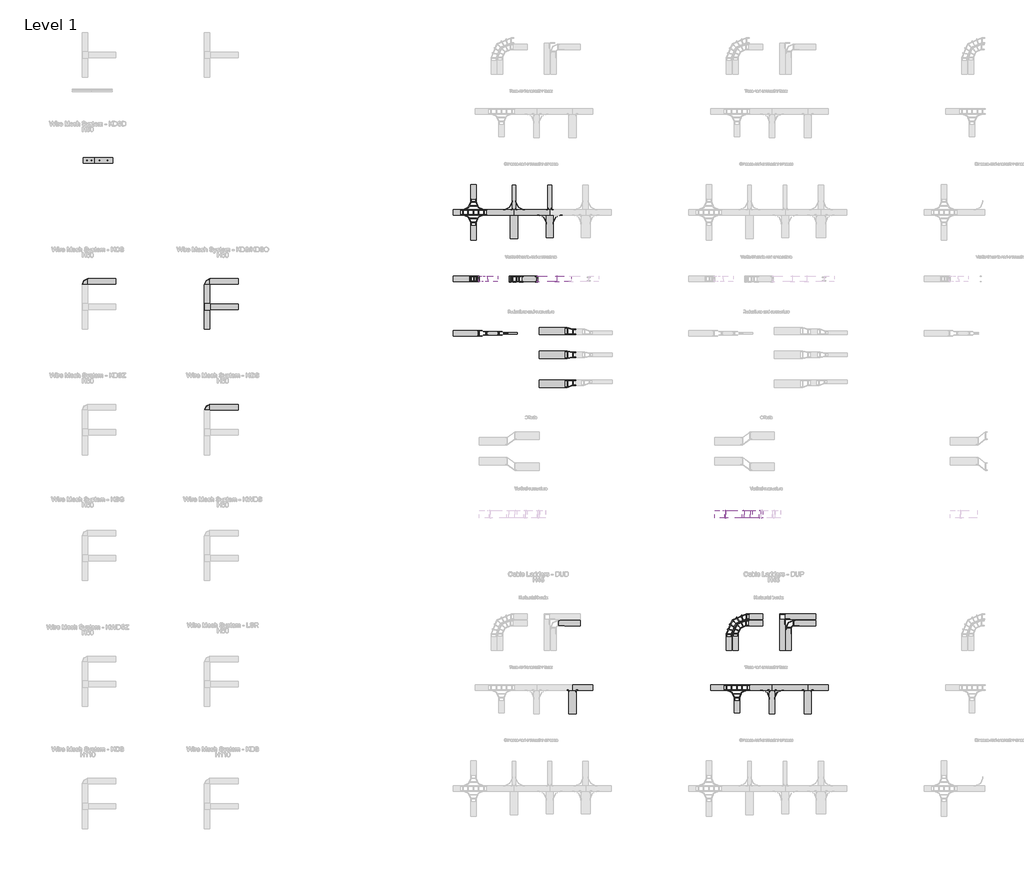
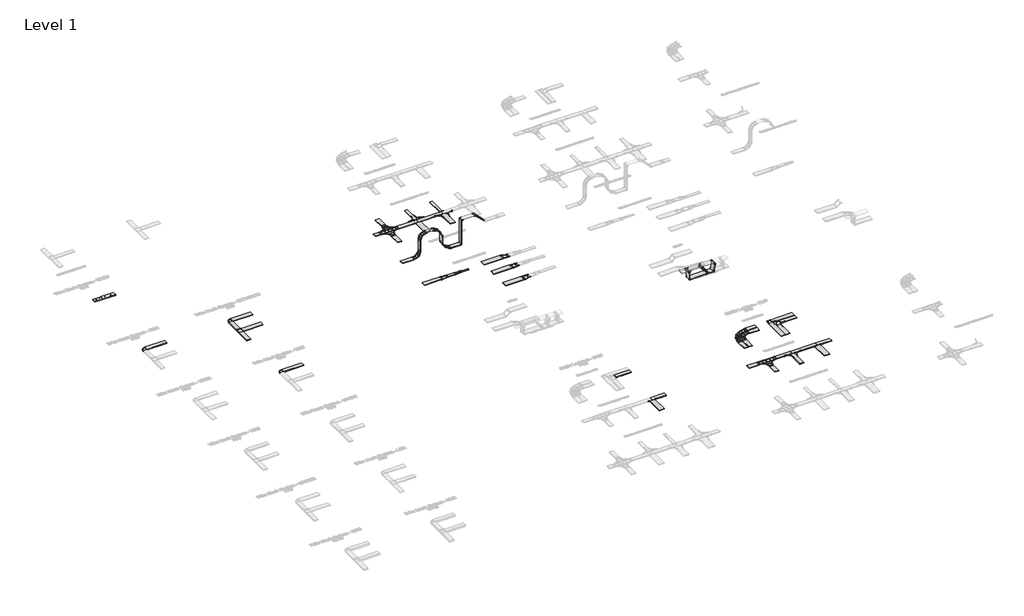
# One storey, part 12 of 106: 65 cable carrier fittings, 57 cable carrier segments.
"""IFC4 building model written with IfcOpenShell, lengths in millimetres."""

from ifc_helpers import new_model, si_unit, frame, origin, origin_with_axes, place, context, project, spatial, polyline, outline, extrude, transform, mapped, element, save
from components import cable_carrier_fitting_433d2681, cable_carrier_fitting_14ea2eab, cable_carrier_fitting_ce1f183e, cable_carrier_fitting_5924018d, cable_carrier_fitting_cf50b9aa, cable_carrier_fitting_6b69b3b7, cable_carrier_fitting_2d894193, cable_carrier_fitting_0f11f104, cable_carrier_fitting_c89aad98, cable_carrier_fitting_28cc8021, cable_carrier_fitting_8b1f635d, cable_carrier_fitting_d30d66bc, cable_carrier_fitting_8d7dc52b, cable_carrier_fitting_3c98dc92, cable_carrier_fitting_6c66d9f1, cable_carrier_fitting_4c1293df, cable_carrier_fitting_cb814f34, cable_carrier_fitting_edb32cbd, cable_carrier_fitting_a9217249, cable_carrier_fitting_c660702d, cable_carrier_fitting_92366696, cable_carrier_fitting_a2b46a04, cable_carrier_fitting_87479157, cable_carrier_fitting_b11fac2c, cable_carrier_fitting_3ee89383, cable_carrier_fitting_dba92b4f, cable_carrier_fitting_0282ae3e, cable_carrier_fitting_7be8867b, cable_carrier_fitting_6104b6d9, cable_carrier_fitting_ec1c524e, cable_carrier_fitting_202d3e5f, cable_carrier_fitting_c25b36c4, cable_carrier_fitting_df7fb664, cable_carrier_fitting_384de159, cable_carrier_fitting_cef1446e

model = new_model("IFC4")

# Units and contexts
model_context = context("Model", 3, world=origin())
ifc_project = project(units=[si_unit("LENGTHUNIT", "METRE", prefix="MILLI")], contexts=[model_context])

# Site, building, storey
site = spatial("IfcSite", under=ifc_project)
building = spatial("IfcBuilding", under=site)
storey = spatial("IfcBuildingStorey", under=building, Name="Level 1", Elevation=0.0)

# Cable carrier fittings
placement = place(None, origin())
cable_carrier_fitting_shape = cable_carrier_fitting_433d2681(model_context)
element("IfcCableCarrierFitting", 1, ObjectType="BAKS_Mesh ceiling hanger_UKDSPC : UKDSCP", at=placement, inside=storey, context=model_context, shape_type="MappedRepresentation", body=[
    mapped(cable_carrier_fitting_shape, transform((6812.6183275, 62709.5444956, 53.25), x_axis=(1.0, 0.0, 0.0), y_axis=(0.0, 1.0, 0.0), z_axis=(0.0, 0.0, 1.0))),
])
element("IfcCableCarrierFitting", 2, ObjectType="BAKS_Mesh ceiling hanger_UKDSPC : UKDSCP", at=placement, inside=storey, context=model_context, shape_type="MappedRepresentation", body=[
    mapped(cable_carrier_fitting_shape, transform((5689.547932, 62709.5444956, 53.25), x_axis=(1.0, 0.0, 0.0), y_axis=(0.0, 1.0, 0.0), z_axis=(0.0, 0.0, 1.0))),
])
cable_carrier_fitting_2_shape = cable_carrier_fitting_14ea2eab(model_context)
element("IfcCableCarrierFitting", 3, ObjectType="BAKS_Mesh ceiling hanger_UKDSC : LKDSC", at=placement, inside=storey, context=model_context, shape_type="MappedRepresentation", body=[
    mapped(cable_carrier_fitting_2_shape, transform((5934.0481079, 62709.5444956, 53.25), x_axis=(1.0, 0.0, 0.0), y_axis=(0.0, 1.0, 0.0), z_axis=(0.0, 0.0, 1.0))),
])
element("IfcCableCarrierFitting", 4, ObjectType="BAKS_Mesh ceiling hanger_UKDSC : LKDSC", at=placement, inside=storey, context=model_context, shape_type="MappedRepresentation", body=[
    mapped(cable_carrier_fitting_2_shape, transform((6378.0755942, 62709.5444956, 53.25), x_axis=(1.0, 0.0, 0.0), y_axis=(0.0, 1.0, 0.0), z_axis=(0.0, 0.0, 1.0))),
])
cable_carrier_fitting_3_shape = cable_carrier_fitting_ce1f183e(model_context)
element("IfcCableCarrierFitting", 5, ObjectType="BAKS_Mesh horizontal bend : KKSZ_H60", at=placement, inside=storey, context=model_context, shape_type="MappedRepresentation", body=[
    mapped(cable_carrier_fitting_3_shape, transform((5569.4167945, 56070.1887189, 30.0), x_axis=(-1.0, 0.0, 0.0), y_axis=(0.0, -1.0, 0.0), z_axis=(0.0, 0.0, 1.0))),
])
element("IfcCableCarrierFitting", 6, ObjectType="BAKS_Mesh horizontal bend : KKSZ_H60", at=placement, inside=storey, context=model_context, shape_type="MappedRepresentation", body=[
    mapped(cable_carrier_fitting_3_shape, transform((12269.4167945, 49170.1887189, 30.0), x_axis=(-1.0, 0.0, 0.0), y_axis=(0.0, -1.0, 0.0), z_axis=(0.0, 0.0, 1.0))),
])
element("IfcCableCarrierFitting", 7, ObjectType="BAKS_Mesh horizontal bend : KKSZ_H60", at=placement, inside=storey, context=model_context, shape_type="MappedRepresentation", body=[
    mapped(cable_carrier_fitting_3_shape, transform((12269.4167945, 56070.1887189, 30.0), x_axis=(-1.0, 0.0, 0.0), y_axis=(0.0, -1.0, 0.0), z_axis=(0.0, 0.0, 1.0))),
])
cable_carrier_fitting_4_shape = cable_carrier_fitting_5924018d(model_context)
element("IfcCableCarrierFitting", 8, ObjectType="BAKS_Mesh horizontal tee : TKSZ_H60", at=placement, inside=storey, context=model_context, shape_type="MappedRepresentation", body=[
    mapped(cable_carrier_fitting_4_shape, transform((12269.4167945, 54693.1012189, 30.0), x_axis=(0.0, 1.0, 0.0), y_axis=(-1.0, 0.0, 0.0), z_axis=(0.0, 0.0, 1.0))),
])
cable_carrier_fitting_5_shape = cable_carrier_fitting_cf50b9aa(model_context)
element("IfcCableCarrierFitting", 9, ObjectType="BAKS_SUB_Mesh connector : LKDSC", at=placement, inside=storey, context=model_context, shape_type="MappedRepresentation", body=[
    mapped(cable_carrier_fitting_5_shape, transform((6106.6145904, 62784.5444956, -35.25), x_axis=(1.0, 0.0, 0.0), y_axis=(0.0, -1.0, 0.0), z_axis=(0.0, 0.0, -1.0))),
])
element("IfcCableCarrierFitting", 10, ObjectType="BAKS_SUB_Mesh connector : LKDSC", at=placement, inside=storey, context=model_context, shape_type="MappedRepresentation", body=[
    mapped(cable_carrier_fitting_5_shape, transform((6106.6145904, 62634.5444956, -35.25), x_axis=(1.0, 0.0, 0.0), y_axis=(0.0, -1.0, 0.0), z_axis=(0.0, 0.0, -1.0))),
])
cable_carrier_fitting_6_shape = cable_carrier_fitting_6b69b3b7(model_context)
element("IfcCableCarrierFitting", 11, ObjectType="BAKS_LD_CONN_Vertical connector light_LPLS : LPLS60", at=placement, inside=storey, context=model_context, shape_type="MappedRepresentation", body=[
    mapped(cable_carrier_fitting_6_shape, transform((40659.0241468, 43507.9361079, 2052.4619182), x_axis=(-1.0, 0.0, 0.0), y_axis=(0.0, 0.0, 1.0), z_axis=(0.0, 1.0, 0.0))),
])
cable_carrier_fitting_7_shape = cable_carrier_fitting_2d894193(model_context)
element("IfcCableCarrierFitting", 12, ObjectType="BAKS_LD_CONN_Angle coupler bendable_LKU : LKUP_H45", at=placement, inside=storey, context=model_context, shape_type="MappedRepresentation", body=[
    mapped(cable_carrier_fitting_7_shape, transform((29189.2849338, 60020.7686574, 32.5), x_axis=(-1.0, 0.0, 0.0), y_axis=(0.0, -1.0, 0.0), z_axis=(0.0, 0.0, 1.0))),
])
element("IfcCableCarrierFitting", 13, ObjectType="BAKS_LD_CONN_Angle coupler bendable_LKU : LKUP_H45", at=placement, inside=storey, context=model_context, shape_type="MappedRepresentation", body=[
    mapped(cable_carrier_fitting_7_shape, transform((28989.2849338, 60020.7686574, 32.5), x_axis=(0.0, -1.0, 0.0), y_axis=(1.0, 0.0, 0.0), z_axis=(0.0, 0.0, 1.0))),
])
element("IfcCableCarrierFitting", 14, ObjectType="BAKS_LD_CONN_Angle coupler bendable_LKU : LKUP_H45", at=placement, inside=storey, context=model_context, shape_type="MappedRepresentation", body=[
    mapped(cable_carrier_fitting_7_shape, transform((28889.2849338, 59720.7686574, 30.0), x_axis=(1.0, 0.0, 0.0), y_axis=(0.0, 1.0, 0.0), z_axis=(0.0, 0.0, 1.0))),
])
element("IfcCableCarrierFitting", 15, ObjectType="BAKS_LD_CONN_Angle coupler bendable_LKU : LKUP_H45", at=placement, inside=storey, context=model_context, shape_type="MappedRepresentation", body=[
    mapped(cable_carrier_fitting_7_shape, transform((31150.9231102, 60020.7686574, 32.5), x_axis=(-1.0, 0.0, 0.0), y_axis=(0.0, -1.0, 0.0), z_axis=(0.0, 0.0, 1.0))),
])
element("IfcCableCarrierFitting", 16, ObjectType="BAKS_LD_CONN_Angle coupler bendable_LKU : LKUP_H45", at=placement, inside=storey, context=model_context, shape_type="MappedRepresentation", body=[
    mapped(cable_carrier_fitting_7_shape, transform((30950.9231102, 60020.7686574, 32.5), x_axis=(0.0, -1.0, 0.0), y_axis=(1.0, 0.0, 0.0), z_axis=(0.0, 0.0, 1.0))),
])
element("IfcCableCarrierFitting", 17, ObjectType="BAKS_LD_CONN_Angle coupler bendable_LKU : LKUP_H45", at=placement, inside=storey, context=model_context, shape_type="MappedRepresentation", body=[
    mapped(cable_carrier_fitting_7_shape, transform((30850.9231102, 59720.7686574, 30.0), x_axis=(1.0, 0.0, 0.0), y_axis=(0.0, 1.0, 0.0), z_axis=(0.0, 0.0, 1.0))),
])
element("IfcCableCarrierFitting", 18, ObjectType="BAKS_LD_CONN_Angle coupler bendable_LKU : LKUP_H45", at=placement, inside=storey, context=model_context, shape_type="MappedRepresentation", body=[
    mapped(cable_carrier_fitting_7_shape, transform((32089.4231102, 33655.924016, 32.5), x_axis=(1.0, 0.0, 0.0), y_axis=(0.0, 1.0, 0.0), z_axis=(0.0, 0.0, 1.0))),
])
element("IfcCableCarrierFitting", 19, ObjectType="BAKS_LD_CONN_Angle coupler bendable_LKU : LKUP_H45", at=placement, inside=storey, context=model_context, shape_type="MappedRepresentation", body=[
    mapped(cable_carrier_fitting_7_shape, transform((32489.4231102, 33655.924016, 32.5), x_axis=(0.0, 1.0, 0.0), y_axis=(-1.0, 0.0, 0.0), z_axis=(0.0, 0.0, 1.0))),
])
element("IfcCableCarrierFitting", 20, ObjectType="BAKS_LD_CONN_Angle coupler bendable_LKU : LKUP_H45", at=placement, inside=storey, context=model_context, shape_type="MappedRepresentation", body=[
    mapped(cable_carrier_fitting_7_shape, transform((43080.7849338, 33655.924016, 32.5), x_axis=(1.0, 0.0, 0.0), y_axis=(0.0, 1.0, 0.0), z_axis=(0.0, 0.0, 1.0))),
])
element("IfcCableCarrierFitting", 21, ObjectType="BAKS_LD_CONN_Angle coupler bendable_LKU : LKUP_H45", at=placement, inside=storey, context=model_context, shape_type="MappedRepresentation", body=[
    mapped(cable_carrier_fitting_7_shape, transform((43380.7849338, 33655.924016, 32.5), x_axis=(0.0, 1.0, 0.0), y_axis=(-1.0, 0.0, 0.0), z_axis=(0.0, 0.0, 1.0))),
])
element("IfcCableCarrierFitting", 22, ObjectType="BAKS_LD_CONN_Angle coupler bendable_LKU : LKUP_H45", at=placement, inside=storey, context=model_context, shape_type="MappedRepresentation", body=[
    mapped(cable_carrier_fitting_7_shape, transform((44989.4231102, 33655.924016, 32.5), x_axis=(1.0, 0.0, 0.0), y_axis=(0.0, 1.0, 0.0), z_axis=(0.0, 0.0, 1.0))),
])
element("IfcCableCarrierFitting", 23, ObjectType="BAKS_LD_CONN_Angle coupler bendable_LKU : LKUP_H45", at=placement, inside=storey, context=model_context, shape_type="MappedRepresentation", body=[
    mapped(cable_carrier_fitting_7_shape, transform((45389.4231102, 33655.924016, 32.5), x_axis=(0.0, 1.0, 0.0), y_axis=(-1.0, 0.0, 0.0), z_axis=(0.0, 0.0, 1.0))),
])
cable_carrier_fitting_8_shape = cable_carrier_fitting_0f11f104(model_context)
element("IfcCableCarrierFitting", 24, ObjectType="BAKS_LD_CONN_Addon connector_LDDK : LDDKP", at=placement, inside=storey, context=model_context, shape_type="MappedRepresentation", body=[
    mapped(cable_carrier_fitting_8_shape, transform((29189.2849338, 60020.7686574, 55.0), x_axis=(-1.0, 0.0, 0.0), y_axis=(0.0, -1.0, 0.0), z_axis=(0.0, 0.0, 1.0))),
])
element("IfcCableCarrierFitting", 25, ObjectType="BAKS_LD_CONN_Addon connector_LDDK : LDDKP", at=placement, inside=storey, context=model_context, shape_type="MappedRepresentation", body=[
    mapped(cable_carrier_fitting_8_shape, transform((30850.9231102, 59720.7686574, 55.0), x_axis=(1.0, 0.0, 0.0), y_axis=(0.0, 1.0, 0.0), z_axis=(0.0, 0.0, 1.0))),
])
element("IfcCableCarrierFitting", 26, ObjectType="BAKS_LD_CONN_Addon connector_LDDK : LDDKP", at=placement, inside=storey, context=model_context, shape_type="MappedRepresentation", body=[
    mapped(cable_carrier_fitting_8_shape, transform((43080.7849338, 33655.924016, 55.0), x_axis=(1.0, 0.0, 0.0), y_axis=(0.0, 1.0, 0.0), z_axis=(0.0, 0.0, 1.0))),
])
cable_carrier_fitting_9_shape = cable_carrier_fitting_c89aad98(model_context)
element("IfcCableCarrierFitting", 27, ObjectType="BAKS_LD_CONN_Vertical connector light_LPLS : LPLS60", at=placement, inside=storey, context=model_context, shape_type="MappedRepresentation", body=[
    mapped(cable_carrier_fitting_9_shape, transform((40659.0241468, 43107.9361079, 2052.4619182), x_axis=(-1.0, 0.0, 0.0), y_axis=(0.0, 0.0, -1.0), z_axis=(0.0, -1.0, 0.0))),
])
cable_carrier_fitting_10_shape = cable_carrier_fitting_28cc8021(model_context)
element("IfcCableCarrierFitting", 28, ObjectType="BAKS_LD_RED_Straight reducer_RD : RD(S/L/P)P_H45", at=placement, inside=storey, context=model_context, shape_type="MappedRepresentation", body=[
    mapped(cable_carrier_fitting_10_shape, transform((31865.5222547, 52057.8476348, 55.0), x_axis=(1.0, 0.0, 0.0), y_axis=(0.0, 1.0, 0.0), z_axis=(0.0, 0.0, 1.0))),
])
cable_carrier_fitting_11_shape = cable_carrier_fitting_8b1f635d(model_context)
element("IfcCableCarrierFitting", 29, ObjectType="BAKS_LD_BEND_Horizontal bend_LD : LDP_H45", at=placement, inside=storey, context=model_context, shape_type="MappedRepresentation", body=[
    mapped(cable_carrier_fitting_11_shape, transform((41233.1923304, 37334.0774962, 55.0), x_axis=(-1.0, 0.0, 0.0), y_axis=(0.0, -1.0, 0.0), z_axis=(0.0, 0.0, 1.0))),
])
cable_carrier_fitting_12_shape = cable_carrier_fitting_d30d66bc(model_context)
element("IfcCableCarrierFitting", 30, ObjectType="BAKS_LD_TEE_Ladder horizontal tee_TD : TDP_H45", at=placement, inside=storey, context=model_context, shape_type="MappedRepresentation", body=[
    mapped(cable_carrier_fitting_12_shape, transform((41302.3039726, 33805.924016, 55.0), x_axis=(1.0, 0.0, 0.0), y_axis=(0.0, 1.0, 0.0), z_axis=(0.0, 0.0, 1.0))),
])
cable_carrier_fitting_13_shape = cable_carrier_fitting_8d7dc52b(model_context)
element("IfcCableCarrierFitting", 31, ObjectType="BAKS_LD_CONN_Univarsal connector elbow_LLUS : LLUSP_H45", at=placement, inside=storey, context=model_context, shape_type="MappedRepresentation", body=[
    mapped(cable_carrier_fitting_13_shape, transform((44145.9928229, 37334.0678837, 55.0), x_axis=(-1.0, 0.0, 0.0), y_axis=(0.0, -1.0, 0.0), z_axis=(0.0, 0.0, 1.0))),
])
cable_carrier_fitting_14_shape = cable_carrier_fitting_3c98dc92(model_context)
element("IfcCableCarrierFitting", 32, ObjectType="BAKS_LD_BEND_Vertical bend 90deg external_LPDZ : LPDZP_H45", at=placement, inside=storey, context=model_context, shape_type="MappedRepresentation", body=[
    mapped(cable_carrier_fitting_14_shape, transform((27164.3823889, 56206.9805429, 1900.0), x_axis=(0.0, 0.0, 1.0), y_axis=(1.0, 0.0, 0.0), z_axis=(0.0, 1.0, 0.0))),
])
cable_carrier_fitting_15_shape = cable_carrier_fitting_6c66d9f1(model_context)
element("IfcCableCarrierFitting", 33, ObjectType="BAKS_LD_BEND_Articulated connector_LG : LGT_H45", at=placement, inside=storey, context=model_context, shape_type="MappedRepresentation", body=[
    mapped(cable_carrier_fitting_15_shape, transform((30364.3823889, 56056.9805429, 0.0), x_axis=(1.0, 0.0, 0.0), y_axis=(0.0, 0.0, 1.0), z_axis=(0.0, -1.0, 0.0))),
])
element("IfcCableCarrierFitting", 34, ObjectType="BAKS_LD_BEND_Articulated connector_LG : LGT_H45", at=placement, inside=storey, context=model_context, shape_type="MappedRepresentation", body=[
    mapped(cable_carrier_fitting_15_shape, transform((30364.3823889, 56356.9805429, 2000.0), x_axis=(0.0, 0.0, 1.0), y_axis=(1.0, 0.0, 0.0), z_axis=(0.0, 1.0, 0.0))),
])
element("IfcCableCarrierFitting", 35, ObjectType="BAKS_LD_BEND_Articulated connector_LG : LGT_H45", at=placement, inside=storey, context=model_context, shape_type="MappedRepresentation", body=[
    mapped(cable_carrier_fitting_15_shape, transform((40659.0241468, 43107.9361079, 1334.7815792), x_axis=(0.0, 0.0, -1.0), y_axis=(1.0, 0.0, 0.0), z_axis=(0.0, -1.0, 0.0))),
])
cable_carrier_fitting_16_shape = cable_carrier_fitting_4c1293df(model_context)
element("IfcCableCarrierFitting", 36, ObjectType="BAKS_LD_BEND_Articulated connector_LG : LGT_H45", at=placement, inside=storey, context=model_context, shape_type="MappedRepresentation", body=[
    mapped(cable_carrier_fitting_16_shape, transform((30364.3823889, 56356.9805429, 0.0), x_axis=(1.0, 0.0, 0.0), y_axis=(0.0, 0.0, -1.0), z_axis=(0.0, 1.0, 0.0))),
])
element("IfcCableCarrierFitting", 37, ObjectType="BAKS_LD_BEND_Articulated connector_LG : LGT_H45", at=placement, inside=storey, context=model_context, shape_type="MappedRepresentation", body=[
    mapped(cable_carrier_fitting_16_shape, transform((30364.3823889, 56056.9805429, 2000.0), x_axis=(0.0, 0.0, 1.0), y_axis=(-1.0, 0.0, 0.0), z_axis=(0.0, -1.0, 0.0))),
])
element("IfcCableCarrierFitting", 38, ObjectType="BAKS_LD_BEND_Articulated connector_LG : LGT_H45", at=placement, inside=storey, context=model_context, shape_type="MappedRepresentation", body=[
    mapped(cable_carrier_fitting_16_shape, transform((40659.0241468, 43507.9361079, 1334.7815792), x_axis=(0.0, 0.0, -1.0), y_axis=(-1.0, 0.0, 0.0), z_axis=(0.0, 1.0, 0.0))),
])
cable_carrier_fitting_17_shape = cable_carrier_fitting_cb814f34(model_context)
element("IfcCableCarrierFitting", 39, ObjectType="BAKS_LD_BEND_Horizontal bend external_LDZ : LDZP_H45", at=placement, inside=storey, context=model_context, shape_type="MappedRepresentation", body=[
    mapped(cable_carrier_fitting_17_shape, transform((40879.6389398, 37687.6308868, 55.0), x_axis=(-1.0, 0.0, 0.0), y_axis=(0.0, -1.0, 0.0), z_axis=(0.0, 0.0, 1.0))),
])
cable_carrier_fitting_18_shape = cable_carrier_fitting_edb32cbd(model_context)
element("IfcCableCarrierFitting", 40, ObjectType="BAKS_LD_CROSS_Horizontal cross over_CZD : CZDP_H45", at=placement, inside=storey, context=model_context, shape_type="MappedRepresentation", body=[
    mapped(cable_carrier_fitting_18_shape, transform((26864.7261828, 59870.7686574, 55.0), x_axis=(-1.0, 0.0, 0.0), y_axis=(0.0, -1.0, 0.0), z_axis=(0.0, 0.0, 1.0))),
])
cable_carrier_fitting_19_shape = cable_carrier_fitting_a9217249(model_context)
element("IfcCableCarrierFitting", 41, ObjectType="BAKS_LD_CONN_Addon connector_LDDK : LDDKP", at=placement, inside=storey, context=model_context, shape_type="MappedRepresentation", body=[
    mapped(cable_carrier_fitting_19_shape, transform((28989.2849338, 60020.7686574, 55.0), x_axis=(1.0, 0.0, 0.0), y_axis=(0.0, 1.0, 0.0), z_axis=(0.0, 0.0, 1.0))),
])
element("IfcCableCarrierFitting", 42, ObjectType="BAKS_LD_CONN_Addon connector_LDDK : LDDKP", at=placement, inside=storey, context=model_context, shape_type="MappedRepresentation", body=[
    mapped(cable_carrier_fitting_19_shape, transform((31250.9231102, 59720.7686574, 55.0), x_axis=(-1.0, 0.0, 0.0), y_axis=(0.0, -1.0, 0.0), z_axis=(0.0, 0.0, 1.0))),
])
element("IfcCableCarrierFitting", 43, ObjectType="BAKS_LD_CONN_Addon connector_LDDK : LDDKP", at=placement, inside=storey, context=model_context, shape_type="MappedRepresentation", body=[
    mapped(cable_carrier_fitting_19_shape, transform((43380.7849338, 33655.924016, 55.0), x_axis=(-1.0, 0.0, 0.0), y_axis=(0.0, -1.0, 0.0), z_axis=(0.0, 0.0, 1.0))),
])
cable_carrier_fitting_20_shape = cable_carrier_fitting_c660702d(model_context)
element("IfcCableCarrierFitting", 44, ObjectType="BAKS_LD_CONN_Angle coupler bendable_LKU : LKUP_H45", at=placement, inside=storey, context=model_context, shape_type="MappedRepresentation", body=[
    mapped(cable_carrier_fitting_20_shape, transform((29289.2849338, 59720.7686574, 30.0), x_axis=(-1.0, 0.0, 0.0), y_axis=(0.0, -1.0, 0.0), z_axis=(0.0, 0.0, 1.0))),
])
element("IfcCableCarrierFitting", 45, ObjectType="BAKS_LD_CONN_Angle coupler bendable_LKU : LKUP_H45", at=placement, inside=storey, context=model_context, shape_type="MappedRepresentation", body=[
    mapped(cable_carrier_fitting_20_shape, transform((31250.9231102, 59720.7686574, 30.0), x_axis=(-1.0, 0.0, 0.0), y_axis=(0.0, -1.0, 0.0), z_axis=(0.0, 0.0, 1.0))),
])
cable_carrier_fitting_21_shape = cable_carrier_fitting_92366696(model_context)
cable_carrier_fitting_22_shape = cable_carrier_fitting_a2b46a04(model_context)
element("IfcCableCarrierFitting", 46, ObjectType="BAKS_LD_BEND_Adjustable vertical bend_LPD : LPDP_H45", at=placement, inside=storey, context=model_context, shape_type="MappedRepresentation", body=[
    mapped(cable_carrier_fitting_21_shape, transform((28864.3823889, 56206.9805429, 1900.0), x_axis=(1.0, 0.0, 0.0), y_axis=(0.0, 0.0, -1.0), z_axis=(0.0, 1.0, 0.0))),
    mapped(cable_carrier_fitting_22_shape, transform((28864.3823889, 56206.9805429, 1900.0), x_axis=(1.0, 0.0, 0.0), y_axis=(0.0, 0.0, -1.0), z_axis=(0.0, 1.0, 0.0))),
])
element("IfcCableCarrierFitting", 47, ObjectType="BAKS_LD_BEND_Adjustable vertical bend_LPD : LPDP_H45", at=placement, inside=storey, context=model_context, shape_type="MappedRepresentation", body=[
    mapped(cable_carrier_fitting_21_shape, transform((28864.3823889, 56206.9805429, 0.0), x_axis=(0.0, 0.0, -1.0), y_axis=(1.0, 0.0, 0.0), z_axis=(0.0, -1.0, 0.0))),
    mapped(cable_carrier_fitting_22_shape, transform((28864.3823889, 56206.9805429, 0.0), x_axis=(0.0, 0.0, -1.0), y_axis=(1.0, 0.0, 0.0), z_axis=(0.0, -1.0, 0.0))),
])
cable_carrier_fitting_23_shape = cable_carrier_fitting_87479157(model_context)
element("IfcCableCarrierFitting", 48, ObjectType="BAKS_LD_BEND_Articulated connector_LG : LGT_H45", at=placement, inside=storey, context=model_context, shape_type="MappedRepresentation", body=[
    mapped(cable_carrier_fitting_23_shape, transform((31464.3823889, 56356.9805429, 2000.0), x_axis=(1.0, 0.0, 0.0), y_axis=(0.0, 0.0, -1.0), z_axis=(0.0, 1.0, 0.0))),
])
cable_carrier_fitting_24_shape = cable_carrier_fitting_b11fac2c(model_context)
element("IfcCableCarrierFitting", 49, ObjectType="BAKS_LD_BEND_Articulated connector_LG : LGT_H45", at=placement, inside=storey, context=model_context, shape_type="MappedRepresentation", body=[
    mapped(cable_carrier_fitting_24_shape, transform((31464.3823889, 56056.9805429, 2000.0), x_axis=(1.0, 0.0, 0.0), y_axis=(0.0, 0.0, 1.0), z_axis=(0.0, -1.0, 0.0))),
])
element("IfcCableCarrierFitting", 50, ObjectType="BAKS_LD_BEND_Vertical bend 90deg internal_LPDW : LPDWP_H45", at=placement, inside=storey, context=model_context, shape_type="MappedRepresentation", body=[
    mapped(cable_carrier_fitting_14_shape, transform((27164.3823889, 56206.9805429, 55.0), x_axis=(1.0, 0.0, 0.0), y_axis=(0.0, 0.0, 1.0), z_axis=(0.0, -1.0, 0.0))),
])
cable_carrier_fitting_25_shape = cable_carrier_fitting_3ee89383(model_context)
element("IfcCableCarrierFitting", 51, ObjectType="BAKS_LD_CONN_Univarsal connector reduction_LLUS : LLUSP_H45", at=placement, inside=storey, context=model_context, shape_type="MappedRepresentation", body=[
    mapped(cable_carrier_fitting_25_shape, transform((28164.3823889, 53231.6579459, 55.0), x_axis=(1.0, 0.0, 0.0), y_axis=(0.0, 1.0, 0.0), z_axis=(0.0, 0.0, 1.0))),
])
cable_carrier_fitting_26_shape = cable_carrier_fitting_dba92b4f(model_context)
element("IfcCableCarrierFitting", 52, ObjectType="BAKS_LD_RED_Straight reducer_RD : RD(S/L/P)P_H45", at=placement, inside=storey, context=model_context, shape_type="MappedRepresentation", body=[
    mapped(cable_carrier_fitting_26_shape, transform((31865.5222547, 50471.6579459, 55.0), x_axis=(1.0, 0.0, 0.0), y_axis=(0.0, 1.0, 0.0), z_axis=(0.0, 0.0, 1.0))),
])
cable_carrier_fitting_27_shape = cable_carrier_fitting_0282ae3e(model_context)
element("IfcCableCarrierFitting", 53, ObjectType="BAKS_LD_CONN_Angle connector_LKD : LKDP_H45", at=placement, inside=storey, context=model_context, shape_type="MappedRepresentation", body=[
    mapped(cable_carrier_fitting_27_shape, transform((43642.4394324, 37837.6212743, 55.0), x_axis=(-1.0, 0.0, 0.0), y_axis=(0.0, -1.0, 0.0), z_axis=(0.0, 0.0, 1.0))),
])
cable_carrier_fitting_28_shape = cable_carrier_fitting_7be8867b(model_context)
element("IfcCableCarrierFitting", 54, ObjectType="BAKS_LD_CONN_Angle connector_LKD : LKDP_H45", at=placement, inside=storey, context=model_context, shape_type="MappedRepresentation", body=[
    mapped(cable_carrier_fitting_28_shape, transform((43942.4394324, 37537.6212743, 55.0), x_axis=(-1.0, 0.0, 0.0), y_axis=(0.0, -1.0, 0.0), z_axis=(0.0, 0.0, 1.0))),
])
cable_carrier_fitting_29_shape = cable_carrier_fitting_6104b6d9(model_context)
element("IfcCableCarrierFitting", 55, ObjectType="BAKS_LD_BEND_2 x Angle connector_LKD : 2 x LKDP_H45", at=placement, inside=storey, context=model_context, shape_type="MappedRepresentation", body=[
    mapped(cable_carrier_fitting_29_shape, transform((43792.4394324, 37687.6212743, 55.0), x_axis=(-1.0, 0.0, 0.0), y_axis=(0.0, -1.0, 0.0), z_axis=(0.0, 0.0, 1.0))),
])
cable_carrier_fitting_30_shape = cable_carrier_fitting_ec1c524e(model_context)
element("IfcCableCarrierFitting", 56, ObjectType="BAKS_LD_RED_Straight reducer_RD : RD(S/L/P)P_H45", at=placement, inside=storey, context=model_context, shape_type="MappedRepresentation", body=[
    mapped(cable_carrier_fitting_30_shape, transform((31865.5222547, 53357.8476348, 55.0), x_axis=(1.0, 0.0, 0.0), y_axis=(0.0, 1.0, 0.0), z_axis=(0.0, 0.0, 1.0))),
])
cable_carrier_fitting_31_shape = cable_carrier_fitting_202d3e5f(model_context)
element("IfcCableCarrierFitting", 57, ObjectType="BAKS_LD_CONN_Univarsal connector reduction_LLUS : LLUSP_H45", at=placement, inside=storey, context=model_context, shape_type="MappedRepresentation", body=[
    mapped(cable_carrier_fitting_31_shape, transform((27064.3823889, 53231.6579459, 55.0), x_axis=(1.0, 0.0, 0.0), y_axis=(0.0, 1.0, 0.0), z_axis=(0.0, 0.0, 1.0))),
])
cable_carrier_fitting_32_shape = cable_carrier_fitting_c25b36c4(model_context)
element("IfcCableCarrierFitting", 58, ObjectType="BAKS_LD_TEE_Articulated connector attachable_LDD : LDDT_H45", at=placement, inside=storey, context=model_context, shape_type="MappedRepresentation", body=[
    mapped(cable_carrier_fitting_32_shape, transform((41710.266251, 43107.9361079, 1949.9576433), x_axis=(1.0, 0.0, 0.0), y_axis=(0.0, 1.0, 0.0), z_axis=(0.0, 0.0, 1.0))),
])
element("IfcCableCarrierFitting", 59, ObjectType="BAKS_LD_TEE_Articulated connector attachable_LDD : LDDT_H45", at=placement, inside=storey, context=model_context, shape_type="MappedRepresentation", body=[
    mapped(cable_carrier_fitting_32_shape, transform((42028.739213, 43107.9361079, 1412.2815792), x_axis=(-1.0, 0.0, 0.0), y_axis=(0.0, 1.0, 0.0), z_axis=(0.0, 0.0, -1.0))),
])
cable_carrier_fitting_33_shape = cable_carrier_fitting_df7fb664(model_context)
element("IfcCableCarrierFitting", 60, ObjectType="BAKS_LD_TEE_Articulated connector attachable_LDD : LDDT_H45", at=placement, inside=storey, context=model_context, shape_type="MappedRepresentation", body=[
    mapped(cable_carrier_fitting_33_shape, transform((41710.266251, 43507.9361079, 1949.9576433), x_axis=(1.0, 0.0, 0.0), y_axis=(0.0, 1.0, 0.0), z_axis=(0.0, 0.0, 1.0))),
])
element("IfcCableCarrierFitting", 61, ObjectType="BAKS_LD_TEE_Articulated connector attachable_LDD : LDDT_H45", at=placement, inside=storey, context=model_context, shape_type="MappedRepresentation", body=[
    mapped(cable_carrier_fitting_33_shape, transform((42028.739213, 43507.9361079, 1412.2815792), x_axis=(-1.0, 0.0, 0.0), y_axis=(0.0, 1.0, 0.0), z_axis=(0.0, 0.0, -1.0))),
])
cable_carrier_fitting_34_shape = cable_carrier_fitting_384de159(model_context)
element("IfcCableCarrierFitting", 62, ObjectType="BAKS_LD_TEE_Articulated connector attachable_LDD : LDDT_H45", at=placement, inside=storey, context=model_context, shape_type="MappedRepresentation", body=[
    mapped(cable_carrier_fitting_34_shape, transform((42626.8193277, 43507.9361079, 1412.2815792), x_axis=(1.0, 0.0, 0.0), y_axis=(0.0, -1.0, 0.0), z_axis=(0.0, 0.0, -1.0))),
])
element("IfcCableCarrierFitting", 63, ObjectType="BAKS_LD_TEE_Articulated connector attachable_LDD : LDDT_H45", at=placement, inside=storey, context=model_context, shape_type="MappedRepresentation", body=[
    mapped(cable_carrier_fitting_34_shape, transform((42610.4138626, 43507.9361079, 1949.9295622), x_axis=(-1.0, 0.0, 0.0), y_axis=(0.0, -1.0, 0.0), z_axis=(0.0, 0.0, 1.0))),
])
cable_carrier_fitting_35_shape = cable_carrier_fitting_cef1446e(model_context)
element("IfcCableCarrierFitting", 64, ObjectType="BAKS_LD_TEE_Articulated connector attachable_LDD : LDDT_H45", at=placement, inside=storey, context=model_context, shape_type="MappedRepresentation", body=[
    mapped(cable_carrier_fitting_35_shape, transform((42626.8193277, 43107.9361079, 1412.2815792), x_axis=(1.0, 0.0, 0.0), y_axis=(0.0, -1.0, 0.0), z_axis=(0.0, 0.0, -1.0))),
])
element("IfcCableCarrierFitting", 65, ObjectType="BAKS_LD_TEE_Articulated connector attachable_LDD : LDDT_H45", at=placement, inside=storey, context=model_context, shape_type="MappedRepresentation", body=[
    mapped(cable_carrier_fitting_35_shape, transform((42610.4138626, 43107.9361079, 1949.9295622), x_axis=(-1.0, 0.0, 0.0), y_axis=(0.0, -1.0, 0.0), z_axis=(0.0, 0.0, 1.0))),
])

# Cable carrier segments
element("IfcCableCarrierSegment", 66, ObjectType="BAKS - Wire mesh tray H60 (KCS)", at=placement, inside=storey, context=model_context, shape_type="SweptSolid", body=[
    extrude(outline(polyline([(5723.5917945, 55920.1887189), (5723.5917945, 56220.1887189), (7269.4167945, 56220.1887189), (7269.4167945, 55920.1887189), (5723.5917945, 55920.1887189)])), origin_with_axes(), (0.0, 0.0, 1.0), 60.0),
])
element("IfcCableCarrierSegment", 67, ObjectType="BAKS - Wire mesh tray H60 (KDS/KDSO)", at=placement, inside=storey, context=model_context, shape_type="SweptSolid", body=[
    extrude(outline(polyline([(12423.5917945, 55920.1887189), (12423.5917945, 56220.1887189), (13969.4167945, 56220.1887189), (13969.4167945, 55920.1887189), (12423.5917945, 55920.1887189)])), origin_with_axes(), (0.0, 0.0, 1.0), 60.0),
])
element("IfcCableCarrierSegment", 68, ObjectType="BAKS - Wire mesh tray H60 (KDS/KDSO)", at=placement, inside=storey, context=model_context, shape_type="SweptSolid", body=[
    extrude(outline(polyline([(12419.4167945, 54898.1012189), (12119.4167945, 54898.1012189), (12119.4167945, 55916.0137189), (12419.4167945, 55916.0137189), (12419.4167945, 54898.1012189)])), origin_with_axes(), (0.0, 0.0, 1.0), 60.0),
])
element("IfcCableCarrierSegment", 69, ObjectType="BAKS - Wire mesh tray H60 (KDS/KDSO)", at=placement, inside=storey, context=model_context, shape_type="SweptSolid", body=[
    extrude(outline(polyline([(12474.4167945, 54543.1012189), (12474.4167945, 54843.1012189), (13969.4167945, 54843.1012189), (13969.4167945, 54543.1012189), (12474.4167945, 54543.1012189)])), origin_with_axes(), (0.0, 0.0, 1.0), 60.0),
])
element("IfcCableCarrierSegment", 70, ObjectType="BAKS - Wire mesh tray H60 (KGS)", at=placement, inside=storey, context=model_context, shape_type="SweptSolid", body=[
    extrude(outline(polyline([(12423.5917945, 49020.1887189), (12423.5917945, 49320.1887189), (13969.4167945, 49320.1887189), (13969.4167945, 49020.1887189), (12423.5917945, 49020.1887189)])), origin_with_axes(), (0.0, 0.0, 1.0), 60.0),
])
element("IfcCableCarrierSegment", 71, ObjectType="BAKS - Wire mesh tray H60 (KDS/KDSO)", at=placement, inside=storey, context=model_context, shape_type="SweptSolid", body=[
    extrude(outline(polyline([(12419.4167945, 53470.1887189), (12119.4167945, 53470.1887189), (12119.4167945, 54488.1012189), (12419.4167945, 54488.1012189), (12419.4167945, 53470.1887189)])), origin_with_axes(), (0.0, 0.0, 1.0), 60.0),
])
element("IfcCableCarrierSegment", 72, ObjectType="BAKS - Wire mesh tray H50 (KDSD)", at=placement, inside=storey, context=model_context, shape_type="SweptSolid", body=[
    extrude(outline(polyline([(6091.6145904, 62859.5444956), (6091.6145904, 62559.5444956), (5489.557436, 62559.5444956), (5489.557436, 62859.5444956), (6091.6145904, 62859.5444956)])), origin_with_axes(), (0.0, 0.0, 1.0), 50.0),
])
element("IfcCableCarrierSegment", 73, ObjectType="BAKS - Wire mesh tray H50 (KDSD)", at=placement, inside=storey, context=model_context, shape_type="SweptSolid", body=[
    extrude(outline(polyline([(7109.557436, 62859.5444956), (7109.557436, 62559.5444956), (6121.6145904, 62559.5444956), (6121.6145904, 62859.5444956), (7109.557436, 62859.5444956)])), origin_with_axes(), (0.0, 0.0, 1.0), 50.0),
])
element("IfcCableCarrierSegment", 74, ObjectType="BAKS - Ladder H45 (DKD)", at=placement, inside=storey, context=model_context, shape_type="SweptSolid", body=[
    extrude(outline(polyline([(25764.3823889, 59720.7686574), (25764.3823889, 60020.7686574), (26144.7261828, 60020.7686574), (26144.7261828, 59720.7686574), (25764.3823889, 59720.7686574)])), frame((0.0, 0.0, 32.5), z_axis=(0.0, 0.0, 1.0), x_axis=(1.0, 0.0, 0.0)), (0.0, 0.0, 1.0), 45.0),
])
element("IfcCableCarrierSegment", 75, ObjectType="BAKS - Ladder H45 (DKD)", at=placement, inside=storey, context=model_context, shape_type="SweptSolid", body=[
    extrude(outline(polyline([(27584.7261828, 59720.7686574), (27584.7261828, 60020.7686574), (29087.7849338, 60020.7686574), (29087.7849338, 59720.7686574), (27584.7261828, 59720.7686574)])), frame((0.0, 0.0, 32.5), z_axis=(0.0, 0.0, 1.0), x_axis=(1.0, 0.0, 0.0)), (0.0, 0.0, 1.0), 45.0),
])
element("IfcCableCarrierSegment", 76, ObjectType="BAKS - Ladder H45 (DKD)", at=placement, inside=storey, context=model_context, shape_type="SweptSolid", body=[
    extrude(outline(polyline([(29090.7849338, 59720.7686574), (29090.7849338, 60020.7686574), (31049.4231102, 60020.7686574), (31049.4231102, 59720.7686574), (29090.7849338, 59720.7686574)])), frame((0.0, 0.0, 32.5), z_axis=(0.0, 0.0, 1.0), x_axis=(1.0, 0.0, 0.0)), (0.0, 0.0, 1.0), 45.0),
])
element("IfcCableCarrierSegment", 77, ObjectType="BAKS - Ladder H45 (DKD)", at=placement, inside=storey, context=model_context, shape_type="SweptSolid", body=[
    extrude(outline(polyline([(27014.7261828, 60590.7686574), (26714.7261828, 60590.7686574), (26714.7261828, 61390.7686574), (27014.7261828, 61390.7686574), (27014.7261828, 60590.7686574)])), frame((0.0, 0.0, 32.5), z_axis=(0.0, 0.0, 1.0), x_axis=(1.0, 0.0, 0.0)), (0.0, 0.0, 1.0), 45.0),
])
element("IfcCableCarrierSegment", 78, ObjectType="BAKS - Ladder H45 (DKD)", at=placement, inside=storey, context=model_context, shape_type="SweptSolid", body=[
    extrude(outline(polyline([(26714.7261828, 59150.7686574), (27014.7261828, 59150.7686574), (27014.7261828, 58350.7686574), (26714.7261828, 58350.7686574), (26714.7261828, 59150.7686574)])), frame((0.0, 0.0, 32.5), z_axis=(0.0, 0.0, 1.0), x_axis=(1.0, 0.0, 0.0)), (0.0, 0.0, 1.0), 45.0),
])
element("IfcCableCarrierSegment", 79, ObjectType="BAKS - Ladder H45 (DKD)", at=placement, inside=storey, context=model_context, shape_type="SweptSolid", body=[
    extrude(outline(polyline([(29189.2849338, 60050.7686574), (28989.2849338, 60050.7686574), (28989.2849338, 61370.7686574), (29189.2849338, 61370.7686574), (29189.2849338, 60050.7686574)])), frame((0.0, 0.0, 32.5), z_axis=(0.0, 0.0, 1.0), x_axis=(1.0, 0.0, 0.0)), (0.0, 0.0, 1.0), 45.0),
])
element("IfcCableCarrierSegment", 80, ObjectType="BAKS - Ladder H45 (DKD)", at=placement, inside=storey, context=model_context, shape_type="SweptSolid", body=[
    extrude(outline(polyline([(28889.2849338, 59690.7686574), (29289.2849338, 59690.7686574), (29289.2849338, 58430.7686574), (28889.2849338, 58430.7686574), (28889.2849338, 59690.7686574)])), frame((0.0, 0.0, 32.5), z_axis=(0.0, 0.0, 1.0), x_axis=(1.0, 0.0, 0.0)), (0.0, 0.0, 1.0), 45.0),
])
element("IfcCableCarrierSegment", 81, ObjectType="BAKS - Ladder H45 (DKD)", at=placement, inside=storey, context=model_context, shape_type="SweptSolid", body=[
    extrude(outline(polyline([(31150.9231102, 60050.7686574), (30950.9231102, 60050.7686574), (30950.9231102, 61370.7686574), (31150.9231102, 61370.7686574), (31150.9231102, 60050.7686574)])), frame((0.0, 0.0, 32.5), z_axis=(0.0, 0.0, 1.0), x_axis=(1.0, 0.0, 0.0)), (0.0, 0.0, 1.0), 45.0),
])
element("IfcCableCarrierSegment", 82, ObjectType="BAKS - Ladder H45 (DKD)", at=placement, inside=storey, context=model_context, shape_type="SweptSolid", body=[
    extrude(outline(polyline([(30850.9231102, 59690.7686574), (31250.9231102, 59690.7686574), (31250.9231102, 58470.7686574), (30850.9231102, 58470.7686574), (30850.9231102, 59690.7686574)])), frame((0.0, 0.0, 32.5), z_axis=(0.0, 0.0, 1.0), x_axis=(1.0, 0.0, 0.0)), (0.0, 0.0, 1.0), 45.0),
])
element("IfcCableCarrierSegment", 83, ObjectType="BAKS - Ladder H45 (DKD)", at=placement, inside=storey, context=model_context, shape_type="SweptSolid", body=[
    extrude(outline(polyline([(25764.3823889, 56056.9805429), (25764.3823889, 56356.9805429), (26641.8823889, 56356.9805429), (26641.8823889, 56056.9805429), (25764.3823889, 56056.9805429)])), frame((0.0, 0.0, 32.5), z_axis=(0.0, 0.0, 1.0), x_axis=(1.0, 0.0, 0.0)), (0.0, 0.0, 1.0), 45.0),
])
element("IfcCableCarrierSegment", 84, ObjectType="BAKS - Ladder H45 (DKD)", at=placement, inside=storey, context=model_context, shape_type="SweptSolid", body=[
    extrude(outline(polyline([(27686.8823889, 56056.9805429), (27686.8823889, 56356.9805429), (28199.6709572, 56356.9805429), (28199.6709572, 56056.9805429), (27686.8823889, 56056.9805429)])), frame((0.0, 0.0, 1877.5), z_axis=(0.0, 0.0, 1.0), x_axis=(1.0, 0.0, 0.0)), (0.0, 0.0, 1.0), 45.0),
])
element("IfcCableCarrierSegment", 85, ObjectType="BAKS - Ladder H45 (DKD)", at=placement, inside=storey, context=model_context, shape_type="SweptSolid", body=[
    extrude(outline(polyline([(27141.8823889, 56356.9805429), (27186.8823889, 56356.9805429), (27186.8823889, 56056.9805429), (27141.8823889, 56056.9805429), (27141.8823889, 56356.9805429)])), frame((0.0, 0.0, 577.5), z_axis=(0.0, 0.0, 1.0), x_axis=(1.0, 0.0, 0.0)), (0.0, 0.0, 1.0), 800.0),
])
element("IfcCableCarrierSegment", 86, ObjectType="BAKS - Ladder H45 (DKD)", at=placement, inside=storey, context=model_context, shape_type="SweptSolid", body=[
    extrude(outline(polyline([(29529.0938206, 56056.9805429), (29529.0938206, 56356.9805429), (30339.3823889, 56356.9805429), (30339.3823889, 56056.9805429), (29529.0938206, 56056.9805429)])), frame((0.0, 0.0, -22.5), z_axis=(0.0, 0.0, 1.0), x_axis=(1.0, 0.0, 0.0)), (0.0, 0.0, 1.0), 45.0),
])
element("IfcCableCarrierSegment", 87, ObjectType="BAKS - Ladder H45 (DKD)", at=placement, inside=storey, context=model_context, shape_type="SweptSolid", body=[
    extrude(outline(polyline([(28886.8823889, 56356.9805429), (28886.8823889, 56056.9805429), (28841.8823889, 56056.9805429), (28841.8823889, 56356.9805429), (28886.8823889, 56356.9805429)])), frame((0.0, 0.0, 664.7114317), z_axis=(0.0, 0.0, 1.0), x_axis=(1.0, 0.0, 0.0)), (0.0, 0.0, 1.0), 570.5771366),
])
element("IfcCableCarrierSegment", 88, ObjectType="BAKS - Ladder H45 (DKD)", at=placement, inside=storey, context=model_context, shape_type="SweptSolid", body=[
    extrude(outline(polyline([(30389.3823889, 56056.9805429), (30389.3823889, 56356.9805429), (31439.3823889, 56356.9805429), (31439.3823889, 56056.9805429), (30389.3823889, 56056.9805429)])), frame((0.0, 0.0, 1977.5), z_axis=(0.0, 0.0, 1.0), x_axis=(1.0, 0.0, 0.0)), (0.0, 0.0, 1.0), 45.0),
])
element("IfcCableCarrierSegment", 89, ObjectType="BAKS - Ladder H45 (DKD)", at=placement, inside=storey, context=model_context, shape_type="SweptSolid", body=[
    extrude(outline(polyline([(30386.8823889, 56056.9805429), (30341.8823889, 56056.9805429), (30341.8823889, 56356.9805429), (30386.8823889, 56356.9805429), (30386.8823889, 56056.9805429)])), frame((0.0, 0.0, 25.0), z_axis=(0.0, 0.0, 1.0), x_axis=(1.0, 0.0, 0.0)), (0.0, 0.0, 1.0), 1950.0),
])
element("IfcCableCarrierSegment", 90, ObjectType="BAKS - Ladder H45 (DKD)", at=placement, inside=storey, context=model_context, shape_type="SweptSolid", body=[
    extrude(outline(polyline([(0.0, -300.0), (0.0, 0.0), (1025.0, 0.0), (1025.0, -300.0), (0.0, -300.0)])), frame((31466.1501559, 56356.9805429, 1966.4124279), z_axis=(0.7071067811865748, 0.0, 0.7071067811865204), x_axis=(0.7071067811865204, 0.0, -0.7071067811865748)), (0.0, 0.0, 1.0), 45.0),
])
element("IfcCableCarrierSegment", 91, ObjectType="BAKS - Ladder H45 (DKD)", at=placement, inside=storey, context=model_context, shape_type="SweptSolid", body=[
    extrude(outline(polyline([(25764.3823889, 53081.6579459), (25764.3823889, 53381.6579459), (27109.3823889, 53381.6579459), (27109.3823889, 53081.6579459), (25764.3823889, 53081.6579459)])), frame((0.0, 0.0, 32.5), z_axis=(0.0, 0.0, 1.0), x_axis=(1.0, 0.0, 0.0)), (0.0, 0.0, 1.0), 45.0),
])
element("IfcCableCarrierSegment", 92, ObjectType="BAKS - Ladder H45 (DKD)", at=placement, inside=storey, context=model_context, shape_type="SweptSolid", body=[
    extrude(outline(polyline([(27619.3823889, 53131.6579459), (27619.3823889, 53331.6579459), (28209.3823889, 53331.6579459), (28209.3823889, 53131.6579459), (27619.3823889, 53131.6579459)])), frame((0.0, 0.0, 32.5), z_axis=(0.0, 0.0, 1.0), x_axis=(1.0, 0.0, 0.0)), (0.0, 0.0, 1.0), 45.0),
])
element("IfcCableCarrierSegment", 93, ObjectType="BAKS - Ladder H45 (DKD)", at=placement, inside=storey, context=model_context, shape_type="SweptSolid", body=[
    extrude(outline(polyline([(28719.3823889, 53181.6579459), (28719.3823889, 53281.6579459), (29264.3823889, 53281.6579459), (29264.3823889, 53181.6579459), (28719.3823889, 53181.6579459)])), frame((0.0, 0.0, 32.5), z_axis=(0.0, 0.0, 1.0), x_axis=(1.0, 0.0, 0.0)), (0.0, 0.0, 1.0), 45.0),
])
element("IfcCableCarrierSegment", 94, ObjectType="BAKS - Ladder H45 (DKD)", at=placement, inside=storey, context=model_context, shape_type="SweptSolid", body=[
    extrude(outline(polyline([(30465.5222547, 50271.6579459), (30465.5222547, 50671.6579459), (31865.5222547, 50671.6579459), (31865.5222547, 50271.6579459), (30465.5222547, 50271.6579459)])), frame((0.0, 0.0, 32.5), z_axis=(0.0, 0.0, 1.0), x_axis=(1.0, 0.0, 0.0)), (0.0, 0.0, 1.0), 45.0),
])
element("IfcCableCarrierSegment", 95, ObjectType="BAKS - Ladder H45 (DKD)", at=placement, inside=storey, context=model_context, shape_type="SweptSolid", body=[
    extrude(outline(polyline([(30465.5222547, 53157.8476348), (30465.5222547, 53557.8476348), (31865.5222547, 53557.8476348), (31865.5222547, 53157.8476348), (30465.5222547, 53157.8476348)])), frame((0.0, 0.0, 32.5), z_axis=(0.0, 0.0, 1.0), x_axis=(1.0, 0.0, 0.0)), (0.0, 0.0, 1.0), 45.0),
])
element("IfcCableCarrierSegment", 96, ObjectType="BAKS - Ladder H45 (DKD)", at=placement, inside=storey, context=model_context, shape_type="SweptSolid", body=[
    extrude(outline(polyline([(30465.5222547, 51857.8476348), (30465.5222547, 52257.8476348), (31865.5222547, 52257.8476348), (31865.5222547, 51857.8476348), (30465.5222547, 51857.8476348)])), frame((0.0, 0.0, 32.5), z_axis=(0.0, 0.0, 1.0), x_axis=(1.0, 0.0, 0.0)), (0.0, 0.0, 1.0), 45.0),
])
element("IfcCableCarrierSegment", 97, ObjectType="BAKS - Ladder H45 (DKP)", at=placement, inside=storey, context=model_context, shape_type="SweptSolid", body=[
    extrude(outline(polyline([(40095.3508196, 43107.9361079), (40095.3508196, 43507.9361079), (40656.5241468, 43507.9361079), (40656.5241468, 43107.9361079), (40095.3508196, 43107.9361079)])), frame((0.0, 0.0, 2004.9576433), z_axis=(0.0, 0.0, 1.0), x_axis=(1.0, 0.0, 0.0)), (0.0, 0.0, 1.0), 45.0),
])
element("IfcCableCarrierSegment", 98, ObjectType="BAKS - Ladder H45 (DKP)", at=placement, inside=storey, context=model_context, shape_type="SweptSolid", body=[
    extrude(outline(polyline([(40661.5241468, 43107.9361079), (40661.5241468, 43507.9361079), (41707.766251, 43507.9361079), (41707.766251, 43107.9361079), (40661.5241468, 43107.9361079)])), frame((0.0, 0.0, 2004.9576433), z_axis=(0.0, 0.0, 1.0), x_axis=(1.0, 0.0, 0.0)), (0.0, 0.0, 1.0), 45.0),
])
element("IfcCableCarrierSegment", 99, ObjectType="BAKS - Ladder H45 (DKP)", at=placement, inside=storey, context=model_context, shape_type="SweptSolid", body=[
    extrude(outline(polyline([(0.0, -400.0), (0.0, 0.0), (705.3887821, 0.0), (705.3887821, -400.0), (0.0, -400.0)])), frame((41604.2002338, 43507.9361079, 1914.6023043), z_axis=(0.7071067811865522, 0.0, 0.707106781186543), x_axis=(0.707106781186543, 0.0, -0.7071067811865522)), (0.0, 0.0, 1.0), 45.0),
])
element("IfcCableCarrierSegment", 100, ObjectType="BAKS - Ladder H45 (DKP)", at=placement, inside=storey, context=model_context, shape_type="SweptSolid", body=[
    extrude(outline(polyline([(42031.239213, 43107.9361079), (42031.239213, 43507.9361079), (42624.3193277, 43507.9361079), (42624.3193277, 43107.9361079), (42031.239213, 43107.9361079)])), frame((0.0, 0.0, 1312.2815792), z_axis=(0.0, 0.0, 1.0), x_axis=(1.0, 0.0, 0.0)), (0.0, 0.0, 1.0), 45.0),
])
element("IfcCableCarrierSegment", 101, ObjectType="BAKS - Ladder H45 (DKP)", at=placement, inside=storey, context=model_context, shape_type="SweptSolid", body=[
    extrude(outline(polyline([(0.0, -399.9999999), (0.0, 0.0), (895.147612, 0.0), (895.147612, -399.9999999), (0.0, -399.9999999)])), frame((41712.7655452, 43507.9361079, 2004.9576434), z_axis=(3.1370388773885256e-05, 0.0, 0.9999999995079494), x_axis=(0.9999999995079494, 0.0, -3.1370388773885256e-05)), (0.0, 0.0, 1.0), 45.0),
])
element("IfcCableCarrierSegment", 102, ObjectType="BAKS - Ladder H45 (DKP)", at=placement, inside=storey, context=model_context, shape_type="SweptSolid", body=[
    extrude(outline(polyline([(22.4999999, -1.2616457), (22.4999999, -401.2616457), (-22.5, -401.2616457), (-22.5, -1.2616457), (22.4999999, -1.2616457)])), frame((42539.019124, 43509.1977536, 1384.0437639), z_axis=(0.2588190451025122, 0.0, 0.9659258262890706), x_axis=(0.9659258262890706, 0.0, -0.2588190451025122)), (0.0, 0.0, 1.0), 615.0820254),
])
element("IfcCableCarrierSegment", 103, ObjectType="BAKS - Ladder H45 (DKP)", at=placement, inside=storey, context=model_context, shape_type="SweptSolid", body=[
    extrude(outline(polyline([(40636.5241468, 43107.9361079), (40636.5241468, 43507.9361079), (40681.5241468, 43507.9361079), (40681.5241468, 43107.9361079), (40636.5241468, 43107.9361079)])), frame((0.0, 0.0, 1359.7815792), z_axis=(0.0, 0.0, 1.0), x_axis=(1.0, 0.0, 0.0)), (0.0, 0.0, 1.0), 612.680339),
])
element("IfcCableCarrierSegment", 104, ObjectType="BAKS - Ladder H45 (DKP)", at=placement, inside=storey, context=model_context, shape_type="SweptSolid", body=[
    extrude(outline(polyline([(42026.239213, 43507.9361079), (42026.239213, 43107.9361079), (40684.0241468, 43107.9361079), (40684.0241468, 43507.9361079), (42026.239213, 43507.9361079)])), frame((0.0, 0.0, 1312.2815792), z_axis=(0.0, 0.0, 1.0), x_axis=(1.0, 0.0, 0.0)), (0.0, 0.0, 1.0), 45.0),
])
element("IfcCableCarrierSegment", 105, ObjectType="BAKS - Ladder H45 (DUD)", at=placement, inside=storey, context=model_context, shape_type="SweptSolid", body=[
    extrude(outline(polyline([(32290.9231102, 33655.924016), (32290.9231102, 33955.924016), (33412.2849338, 33955.924016), (33412.2849338, 33655.924016), (32290.9231102, 33655.924016)])), frame((0.0, 0.0, 32.5), z_axis=(0.0, 0.0, 1.0), x_axis=(1.0, 0.0, 0.0)), (0.0, 0.0, 1.0), 45.0),
])
element("IfcCableCarrierSegment", 106, ObjectType="BAKS - Ladder H45 (DUD)", at=placement, inside=storey, context=model_context, shape_type="SweptSolid", body=[
    extrude(outline(polyline([(32089.4231102, 33625.924016), (32489.4231102, 33625.924016), (32489.4231102, 32355.924016), (32089.4231102, 32355.924016), (32089.4231102, 33625.924016)])), frame((0.0, 0.0, 32.5), z_axis=(0.0, 0.0, 1.0), x_axis=(1.0, 0.0, 0.0)), (0.0, 0.0, 1.0), 45.0),
])
element("IfcCableCarrierSegment", 107, ObjectType="BAKS - Ladder H45 (DUD)", at=placement, inside=storey, context=model_context, shape_type="SweptSolid", body=[
    extrude(outline(polyline([(31535.9928229, 37184.0678837), (31535.9928229, 37484.0678837), (32723.4928229, 37484.0678837), (32723.4928229, 37184.0678837), (31535.9928229, 37184.0678837)])), frame((0.0, 0.0, 32.5), z_axis=(0.0, 0.0, 1.0), x_axis=(1.0, 0.0, 0.0)), (0.0, 0.0, 1.0), 45.0),
])
element("IfcCableCarrierSegment", 108, ObjectType="BAKS - Ladder H45 (DUP)", at=placement, inside=storey, context=model_context, shape_type="SweptSolid", body=[
    extrude(outline(polyline([(41953.1923304, 37184.0774962), (41953.1923304, 37484.0774962), (42710.6923304, 37484.0774962), (42710.6923304, 37184.0774962), (41953.1923304, 37184.0774962)])), frame((0.0, 0.0, 32.5), z_axis=(0.0, 0.0, 1.0), x_axis=(1.0, 0.0, 0.0)), (0.0, 0.0, 1.0), 45.0),
])
element("IfcCableCarrierSegment", 109, ObjectType="BAKS - Ladder H45 (DUP)", at=placement, inside=storey, context=model_context, shape_type="SweptSolid", body=[
    extrude(outline(polyline([(41083.1923304, 36614.0774962), (41383.1923304, 36614.0774962), (41383.1923304, 35834.0774962), (41083.1923304, 35834.0774962), (41083.1923304, 36614.0774962)])), frame((0.0, 0.0, 32.5), z_axis=(0.0, 0.0, 1.0), x_axis=(1.0, 0.0, 0.0)), (0.0, 0.0, 1.0), 45.0),
])
element("IfcCableCarrierSegment", 110, ObjectType="BAKS - Ladder H45 (DUP)", at=placement, inside=storey, context=model_context, shape_type="SweptSolid", body=[
    extrude(outline(polyline([(41979.6389398, 37537.6308868), (41979.6389398, 37837.6308868), (42710.6923304, 37837.6308868), (42710.6923304, 37537.6308868), (41979.6389398, 37537.6308868)])), frame((0.0, 0.0, 32.5), z_axis=(0.0, 0.0, 1.0), x_axis=(1.0, 0.0, 0.0)), (0.0, 0.0, 1.0), 45.0),
])
element("IfcCableCarrierSegment", 111, ObjectType="BAKS - Ladder H45 (DUP)", at=placement, inside=storey, context=model_context, shape_type="SweptSolid", body=[
    extrude(outline(polyline([(40729.6389398, 36587.6308868), (41029.6389398, 36587.6308868), (41029.6389398, 35834.0774962), (40729.6389398, 35834.0774962), (40729.6389398, 36587.6308868)])), frame((0.0, 0.0, 32.5), z_axis=(0.0, 0.0, 1.0), x_axis=(1.0, 0.0, 0.0)), (0.0, 0.0, 1.0), 45.0),
])
element("IfcCableCarrierSegment", 112, ObjectType="BAKS - Ladder H45 (DUP)", at=placement, inside=storey, context=model_context, shape_type="SweptSolid", body=[
    extrude(outline(polyline([(45190.9231102, 33655.924016), (45190.9231102, 33955.924016), (46312.2849338, 33955.924016), (46312.2849338, 33655.924016), (45190.9231102, 33655.924016)])), frame((0.0, 0.0, 32.5), z_axis=(0.0, 0.0, 1.0), x_axis=(1.0, 0.0, 0.0)), (0.0, 0.0, 1.0), 45.0),
])
element("IfcCableCarrierSegment", 113, ObjectType="BAKS - Ladder H45 (DUP)", at=placement, inside=storey, context=model_context, shape_type="SweptSolid", body=[
    extrude(outline(polyline([(41152.3039726, 33085.924016), (41452.3039726, 33085.924016), (41452.3039726, 32405.924016), (41152.3039726, 32405.924016), (41152.3039726, 33085.924016)])), frame((0.0, 0.0, 32.5), z_axis=(0.0, 0.0, 1.0), x_axis=(1.0, 0.0, 0.0)), (0.0, 0.0, 1.0), 45.0),
])
element("IfcCableCarrierSegment", 114, ObjectType="BAKS - Ladder H45 (DUP)", at=placement, inside=storey, context=model_context, shape_type="SweptSolid", body=[
    extrude(outline(polyline([(39864.3823889, 33655.924016), (39864.3823889, 33955.924016), (40582.3039726, 33955.924016), (40582.3039726, 33655.924016), (39864.3823889, 33655.924016)])), frame((0.0, 0.0, 32.5), z_axis=(0.0, 0.0, 1.0), x_axis=(1.0, 0.0, 0.0)), (0.0, 0.0, 1.0), 45.0),
])
element("IfcCableCarrierSegment", 115, ObjectType="BAKS - Ladder H45 (DUP)", at=placement, inside=storey, context=model_context, shape_type="SweptSolid", body=[
    extrude(outline(polyline([(43080.7849338, 33625.924016), (43380.7849338, 33625.924016), (43380.7849338, 32355.924016), (43080.7849338, 32355.924016), (43080.7849338, 33625.924016)])), frame((0.0, 0.0, 32.5), z_axis=(0.0, 0.0, 1.0), x_axis=(1.0, 0.0, 0.0)), (0.0, 0.0, 1.0), 45.0),
])
element("IfcCableCarrierSegment", 116, ObjectType="BAKS - Ladder H45 (DUP)", at=placement, inside=storey, context=model_context, shape_type="SweptSolid", body=[
    extrude(outline(polyline([(42022.3039726, 33655.924016), (42022.3039726, 33955.924016), (43229.2849338, 33955.924016), (43229.2849338, 33655.924016), (42022.3039726, 33655.924016)])), frame((0.0, 0.0, 32.5), z_axis=(0.0, 0.0, 1.0), x_axis=(1.0, 0.0, 0.0)), (0.0, 0.0, 1.0), 45.0),
])
element("IfcCableCarrierSegment", 117, ObjectType="BAKS - Ladder H45 (DUP)", at=placement, inside=storey, context=model_context, shape_type="SweptSolid", body=[
    extrude(outline(polyline([(43232.2849338, 33655.924016), (43232.2849338, 33955.924016), (45187.9231102, 33955.924016), (45187.9231102, 33655.924016), (43232.2849338, 33655.924016)])), frame((0.0, 0.0, 32.5), z_axis=(0.0, 0.0, 1.0), x_axis=(1.0, 0.0, 0.0)), (0.0, 0.0, 1.0), 45.0),
])
element("IfcCableCarrierSegment", 118, ObjectType="BAKS - Ladder H45 (DUP)", at=placement, inside=storey, context=model_context, shape_type="SweptSolid", body=[
    extrude(outline(polyline([(44989.4231102, 33625.924016), (45389.4231102, 33625.924016), (45389.4231102, 32355.924016), (44989.4231102, 32355.924016), (44989.4231102, 33625.924016)])), frame((0.0, 0.0, 32.5), z_axis=(0.0, 0.0, 1.0), x_axis=(1.0, 0.0, 0.0)), (0.0, 0.0, 1.0), 45.0),
])
element("IfcCableCarrierSegment", 119, ObjectType="BAKS - Ladder H45 (DUP)", at=placement, inside=storey, context=model_context, shape_type="SweptSolid", body=[
    extrude(outline(polyline([(44435.9928229, 37184.0678837), (44435.9928229, 37484.0678837), (45623.4928229, 37484.0678837), (45623.4928229, 37184.0678837), (44435.9928229, 37184.0678837)])), frame((0.0, 0.0, 32.5), z_axis=(0.0, 0.0, 1.0), x_axis=(1.0, 0.0, 0.0)), (0.0, 0.0, 1.0), 45.0),
])
element("IfcCableCarrierSegment", 120, ObjectType="BAKS - Ladder H45 (DUP)", at=placement, inside=storey, context=model_context, shape_type="SweptSolid", body=[
    extrude(outline(polyline([(43995.9928229, 37044.0678837), (44295.9928229, 37044.0678837), (44295.9928229, 35834.0678837), (43995.9928229, 35834.0678837), (43995.9928229, 37044.0678837)])), frame((0.0, 0.0, 32.5), z_axis=(0.0, 0.0, 1.0), x_axis=(1.0, 0.0, 0.0)), (0.0, 0.0, 1.0), 45.0),
])
element("IfcCableCarrierSegment", 121, ObjectType="BAKS - Ladder H45 (DUP)", at=placement, inside=storey, context=model_context, shape_type="SweptSolid", body=[
    extrude(outline(polyline([(43942.4383287, 37537.6336431), (43942.440536, 37837.6336431), (45623.4939266, 37837.6212743), (45623.4917193, 37537.6212743), (43942.4383287, 37537.6336431)])), frame((0.0, 0.0, 32.5), z_axis=(0.0, 0.0, 1.0), x_axis=(1.0, 0.0, 0.0)), (0.0, 0.0, 1.0), 45.0),
])
element("IfcCableCarrierSegment", 122, ObjectType="BAKS - Ladder H45 (DUP)", at=placement, inside=storey, context=model_context, shape_type="SweptSolid", body=[
    extrude(outline(polyline([(43642.4274879, 37537.6325914), (43942.4274879, 37537.6346948), (43942.4394324, 35834.0689354), (43642.4394324, 35834.066832), (43642.4274879, 37537.6325914)])), frame((0.0, 0.0, 32.5), z_axis=(0.0, 0.0, 1.0), x_axis=(1.0, 0.0, 0.0)), (0.0, 0.0, 1.0), 45.0),
])

save(model, "model.ifc")
